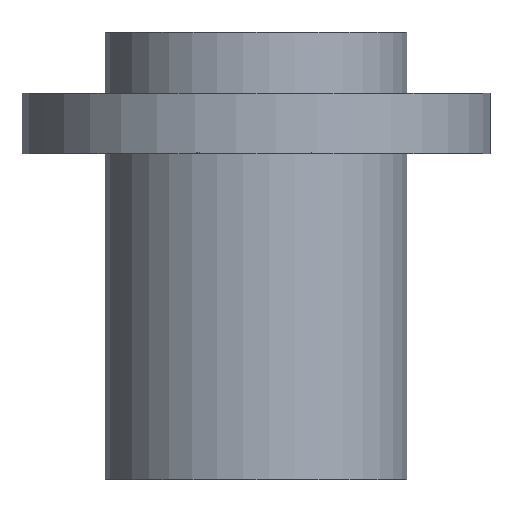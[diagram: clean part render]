
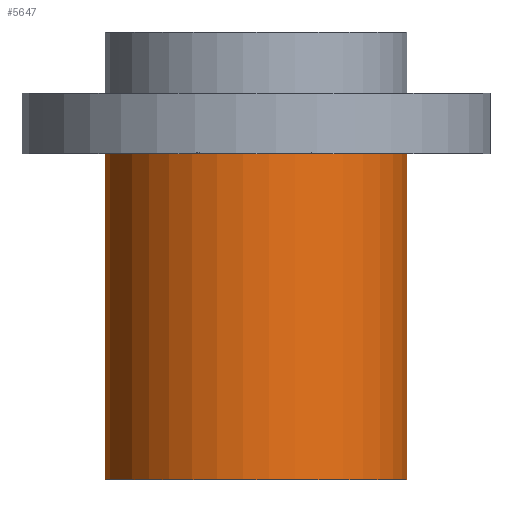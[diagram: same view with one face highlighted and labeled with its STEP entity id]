
A CAD part, front view. The second image highlights one B-rep face of the part: STEP entity #5647.
In plain terms, the highlighted cylindrical face has radius 20 mm (diameter 40 mm), a full revolution.
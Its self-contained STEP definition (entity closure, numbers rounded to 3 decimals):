
#81=CYLINDRICAL_SURFACE('',#6007,20.);
#101=CIRCLE('',#5993,20.);
#111=CIRCLE('',#6008,20.);
#506=ORIENTED_EDGE('',*,*,#2136,.T.);
#507=ORIENTED_EDGE('',*,*,#2012,.T.);
#2012=EDGE_CURVE('',#2827,#2827,#101,.F.);
#2136=EDGE_CURVE('',#2951,#2951,#111,.T.);
#2827=VERTEX_POINT('',#8322);
#2951=VERTEX_POINT('',#8975);
#4624=EDGE_LOOP('',(#506));
#4625=EDGE_LOOP('',(#507));
#5031=FACE_BOUND('',#4624,.T.);
#5032=FACE_BOUND('',#4625,.T.);
#5647=ADVANCED_FACE('',(#5031,#5032),#81,.T.);
#5993=AXIS2_PLACEMENT_3D('',#8321,#6404,#6405);
#6007=AXIS2_PLACEMENT_3D('',#8973,#6523,#6524);
#6008=AXIS2_PLACEMENT_3D('',#8974,#6525,#6526);
#6404=DIRECTION('',(0.,0.,1.));
#6405=DIRECTION('',(0.707,-0.707,0.));
#6523=DIRECTION('',(0.,0.,1.));
#6524=DIRECTION('',(0.707,-0.707,0.));
#6525=DIRECTION('',(0.,0.,1.));
#6526=DIRECTION('',(0.707,-0.707,0.));
#8321=CARTESIAN_POINT('',(0.,0.,-8.));
#8322=CARTESIAN_POINT('',(14.142,-14.142,-8.));
#8973=CARTESIAN_POINT('',(0.,0.,-51.));
#8974=CARTESIAN_POINT('',(0.,0.,-51.));
#8975=CARTESIAN_POINT('',(14.142,-14.142,-51.));
